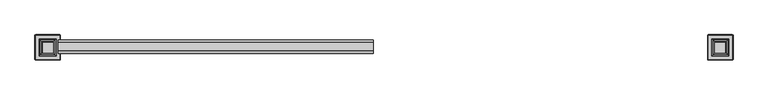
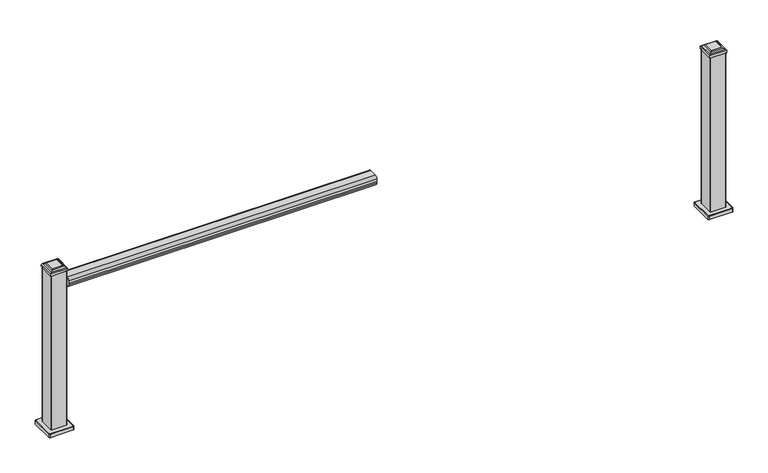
"""IFC4 building model written with IfcOpenShell, lengths in millimetres: railing geometry, NewTechWood - Peruvian Teak."""

from ifc_helpers import new_model, si_unit, point, frame, frame_2d, origin, place, context, project, spatial, polyline, circle_curve, ellipse_curve, trimmed, segment, composite_curve, outline, extrude, faceted_brep, source, transform, mapped, element, save
from ifc_brep_helpers import plane_surface, cylinder_surface, revolved_surface, advanced_brep


def railing_c6992215(model_context):
    return source(origin(), model_context, "Body", "SolidModel", [
        extrude(outline(composite_curve([segment(polyline([(11543.636591, 859.0161325), (11499.2718146, 859.0161325)]), True, "CONTINUOUS"), segment(trimmed(circle_curve(frame_2d((11499.2718146, 875.7552917)), 16.7391591), [point((11499.2718146, 859.0161325))], [point((11482.5326554, 875.7552917))], False, "CARTESIAN"), True, "CONTINUOUS"), segment(polyline([(11482.5326554, 875.7552917), (11482.5326554, 885.3278473)]), True, "CONTINUOUS"), segment(trimmed(circle_curve(frame_2d((11469.6196989, 891.6660673)), 14.3846265), [point((11482.5326554, 885.3278473))], [point((11482.0441367, 898.9152621))], True, "CARTESIAN"), True, "CONTINUOUS"), segment(trimmed(circle_curve(frame_2d((11497.612742, 898.9152621)), 15.5686053), [point((11482.0441367, 898.9152621))], [point((11497.612742, 914.4838675))], False, "CARTESIAN"), True, "CONTINUOUS"), segment(polyline([(11497.612742, 914.4838675), (11545.2956636, 914.4838675)]), True, "CONTINUOUS"), segment(trimmed(circle_curve(frame_2d((11545.2956636, 898.9152621)), 15.5686053), [point((11545.2956636, 914.4838675))], [point((11560.8642689, 898.9152621))], False, "CARTESIAN"), True, "CONTINUOUS"), segment(trimmed(circle_curve(frame_2d((11573.2887067, 891.6660673)), 14.3846265), [point((11560.8642689, 898.9152621))], [point((11560.3757501, 885.3278473))], True, "CARTESIAN"), True, "CONTINUOUS"), segment(polyline([(11560.3757501, 885.3278473), (11560.3757501, 875.7552917)]), True, "CONTINUOUS"), segment(trimmed(circle_curve(frame_2d((11543.636591, 875.7552917)), 16.7391591), [point((11560.3757501, 875.7552917))], [point((11543.636591, 859.0161325))], False, "CARTESIAN"), True, "CONTINUOUS")], self_intersect=False)), frame((20269.491138, 0.0, 0.0), z_axis=(1.0, 0.0, 0.0), x_axis=(0.0, 1.0, 0.0)), (0.0, 0.0, 1.0), 1799.0),
        advanced_brep(
        [(24121.5131693, 11447.5944784, 22.5), (24124.6727366, 11450.7540458, 22.5), (24124.6727366, 11585.4340458, 22.5), (24121.5131693, 11588.5936132, 22.5), (23986.8331693, 11588.5936132, 22.5), (23983.6736019, 11585.4340458, 22.5), (23983.6736019, 11450.7540458, 22.5), (23986.8331693, 11447.5944784, 22.5), (23981.6731693, 11585.4340458, 0.0), (23986.8331693, 11590.5940458, 0.0), (24121.5131693, 11590.5940458, 0.0), (24126.6731693, 11585.4340458, 0.0), (24126.6731693, 11450.7540458, 0.0), (24121.5131693, 11445.5940458, 0.0), (23986.8331693, 11445.5940458, 0.0), (23981.6731693, 11450.7540458, 0.0), (23981.6731693, 11450.7540458, 20.4995674), (23981.6731693, 11585.4340458, 20.4995674), (23986.8331693, 11445.5940458, 20.499569), (24121.5131693, 11445.5940458, 20.499569), (24126.6731693, 11450.7540458, 20.4995691), (24126.6731693, 11585.4340458, 20.4995674), (24121.5131693, 11590.5940458, 20.4995692), (23986.8331693, 11590.5940458, 20.4995674)],
        [
            (0, 1, circle_curve(frame((24121.5131693, 11450.7540458, 22.5), z_axis=(0.0, 0.0, 1.0), x_axis=(0.0, -1.0, 0.0)), 3.1595674)),
            (1, 2),
            (2, 3, circle_curve(frame((24121.5131693, 11585.4340458, 22.5), z_axis=(0.0, 0.0, 1.0), x_axis=(1.0, 0.0, 0.0)), 3.1595674)),
            (3, 4),
            (4, 5, circle_curve(frame((23986.8331693, 11585.4340458, 22.5), z_axis=(0.0, 0.0, 1.0), x_axis=(0.0, 1.0, 0.0)), 3.1595674)),
            (5, 6),
            (6, 7, circle_curve(frame((23986.8331693, 11450.7540458, 22.5), z_axis=(0.0, 0.0, 1.0), x_axis=(-1.0, 0.0, 0.0)), 3.1595674)),
            (7, 0),
            (8, 9, circle_curve(frame((23986.8331693, 11585.4340458, 0.0), z_axis=(0.0, 0.0, -1.0), x_axis=(0.0, 1.0, 0.0)), 5.16)),
            (9, 10),
            (10, 11, circle_curve(frame((24121.5131693, 11585.4340458, 0.0), z_axis=(0.0, 0.0, -1.0), x_axis=(0.0, 1.0, 0.0)), 5.16)),
            (11, 12),
            (12, 13, circle_curve(frame((24121.5131693, 11450.7540458, 0.0), z_axis=(0.0, 0.0, -1.0), x_axis=(0.0, 1.0, 0.0)), 5.16)),
            (13, 14),
            (14, 15, circle_curve(frame((23986.8331693, 11450.7540458, 0.0), z_axis=(0.0, 0.0, -1.0), x_axis=(0.0, 1.0, 0.0)), 5.16)),
            (15, 8),
            (15, 16),
            (16, 17),
            (17, 8),
            (14, 18),
            (18, 16, circle_curve(frame((23986.8331693, 11450.7540458, 20.4995674), z_axis=(0.0, 0.0, -1.0), x_axis=(0.0, 1.0, 0.0)), 5.16)),
            (13, 19),
            (19, 18),
            (12, 20),
            (20, 19, circle_curve(frame((24121.5131693, 11450.7540458, 20.4995674), z_axis=(0.0, 0.0, -1.0), x_axis=(0.0, 1.0, 0.0)), 5.16)),
            (11, 21),
            (21, 20),
            (10, 22),
            (22, 21, circle_curve(frame((24121.5131693, 11585.4340458, 20.4995674), z_axis=(0.0, 0.0, -1.0), x_axis=(0.0, 1.0, 0.0)), 5.16)),
            (9, 23),
            (23, 22),
            (17, 23, circle_curve(frame((23986.8331693, 11585.4340458, 20.4995674), z_axis=(0.0, 0.0, -1.0), x_axis=(0.0, 1.0, 0.0)), 5.16)),
            (20, 1, circle_curve(frame((24124.6727366, 11450.7540458, 20.4995674), z_axis=(0.0, -1.0, 0.0), x_axis=(-1.0, 0.0, 0.0)), 2.0004326)),
            (0, 19, circle_curve(frame((24121.5131693, 11447.5944784, 20.4995674), z_axis=(1.0, 0.0, 0.0), x_axis=(0.0, 1.0, 0.0)), 2.0004326)),
            (21, 2, circle_curve(frame((24124.6727366, 11585.4340458, 20.4995674), z_axis=(0.0, -1.0, 0.0), x_axis=(-1.0, 0.0, 0.0)), 2.0004326)),
            (22, 3, circle_curve(frame((24121.5131693, 11588.5936132, 20.4995674), z_axis=(1.0, 0.0, 0.0), x_axis=(0.0, -1.0, 0.0)), 2.0004326)),
            (23, 4, circle_curve(frame((23986.8331693, 11588.5936132, 20.4995674), z_axis=(1.0, 0.0, 0.0), x_axis=(0.0, -1.0, 0.0)), 2.0004326)),
            (17, 5, circle_curve(frame((23983.6736019, 11585.4340458, 20.4995674), z_axis=(0.0, 1.0, 0.0), x_axis=(1.0, 0.0, 0.0)), 2.0004326)),
            (16, 6, circle_curve(frame((23983.6736019, 11450.7540458, 20.4995674), z_axis=(0.0, 1.0, 0.0), x_axis=(1.0, 0.0, 0.0)), 2.0004326)),
            (18, 7, circle_curve(frame((23986.8331693, 11447.5944784, 20.4995674), z_axis=(-1.0, 0.0, 0.0), x_axis=(0.0, 1.0, 0.0)), 2.0004326)),
        ],
        [
            plane_surface(frame((23981.6731693, 11558.658052, 22.5), z_axis=(0.0, 0.0, 1.0), x_axis=(0.0, -1.0, 0.0))),
            plane_surface(frame((23981.6731693, 11558.658052, 0.0), z_axis=(0.0, 0.0, -1.0), x_axis=(0.0, 1.0, 0.0))),
            plane_surface(frame((23981.6731693, 11585.4340458, 22.5), z_axis=(-1.0, 0.0, 0.0), x_axis=(0.0, 0.0, -1.0))),
            cylinder_surface(frame((23986.8331693, 11450.7540458, 0.0), z_axis=(0.0, 0.0, 1.0), x_axis=(0.0, 1.0, 0.0)), 5.16),
            plane_surface(frame((23986.8331693, 11445.5940458, 22.5), z_axis=(0.0, -1.0, 0.0), x_axis=(0.0, 0.0, -1.0))),
            cylinder_surface(frame((24121.5131693, 11450.7540458, 0.0), z_axis=(0.0, 0.0, 1.0), x_axis=(0.0, 1.0, 0.0)), 5.16),
            plane_surface(frame((24126.6731693, 11450.7540458, 22.5), z_axis=(1.0, 0.0, 0.0), x_axis=(0.0, 0.0, -1.0))),
            cylinder_surface(frame((24121.5131693, 11585.4340458, 0.0), z_axis=(0.0, 0.0, 1.0), x_axis=(0.0, 1.0, 0.0)), 5.16),
            plane_surface(frame((24121.5131693, 11590.5940458, 22.5), z_axis=(0.0, 1.0, 0.0), x_axis=(0.0, 0.0, -1.0))),
            cylinder_surface(frame((23986.8331693, 11585.4340458, 0.0), z_axis=(0.0, 0.0, 1.0), x_axis=(0.0, 1.0, 0.0)), 5.16),
            revolved_surface(trimmed(ellipse_curve(frame((24121.5131693, 11447.5944784, 20.4995674), z_axis=(-1.0, 0.0, 0.0), x_axis=(0.0, 1.0, 0.0)), 2.0004326, 2.0004326), [point((24121.5131693, 11445.5940458, 20.4995674))], [point((24121.5131693, 11447.5944784, 22.5))], True, "CARTESIAN"), (24121.5131693, 11450.7540458, 22.5), (0.0, 0.0, 1.0)),
            cylinder_surface(frame((24124.6727366, 11450.7540458, 20.4995674), z_axis=(0.0, 1.0, 0.0), x_axis=(-1.0, 0.0, 0.0)), 2.0004326),
            revolved_surface(trimmed(ellipse_curve(frame((24124.6727366, 11585.4340458, 20.4995674), z_axis=(0.0, -1.0, 0.0), x_axis=(-1.0, 0.0, 0.0)), 2.0004326, 2.0004326), [point((24126.6731693, 11585.4340458, 20.4995674))], [point((24124.6727366, 11585.4340458, 22.5))], True, "CARTESIAN"), (24121.5131693, 11585.4340458, 22.5), (0.0, 0.0, 1.0)),
            cylinder_surface(frame((24121.5131693, 11588.5936132, 20.4995674), z_axis=(-1.0, 0.0, 0.0), x_axis=(0.0, -1.0, 0.0)), 2.0004326),
            revolved_surface(trimmed(ellipse_curve(frame((23986.8331693, 11588.5936132, 20.4995674), z_axis=(1.0, 0.0, 0.0), x_axis=(0.0, -1.0, 0.0)), 2.0004326, 2.0004326), [point((23986.8331693, 11590.5940458, 20.4995674))], [point((23986.8331693, 11588.5936132, 22.5))], True, "CARTESIAN"), (23986.8331693, 11585.4340458, 22.5), (0.0, 0.0, 1.0)),
            cylinder_surface(frame((23983.6736019, 11585.4340458, 20.4995674), z_axis=(0.0, -1.0, 0.0), x_axis=(1.0, 0.0, 0.0)), 2.0004326),
            revolved_surface(trimmed(ellipse_curve(frame((23983.6736019, 11450.7540458, 20.4995674), z_axis=(0.0, 1.0, 0.0), x_axis=(1.0, 0.0, 0.0)), 2.0004326, 2.0004326), [point((23981.6731693, 11450.7540458, 20.4995674))], [point((23983.6736019, 11450.7540458, 22.5))], True, "CARTESIAN"), (23986.8331693, 11450.7540458, 22.5), (0.0, 0.0, 1.0)),
            cylinder_surface(frame((23986.8331693, 11447.5944784, 20.4995674), z_axis=(1.0, 0.0, 0.0), x_axis=(0.0, 1.0, 0.0)), 2.0004326),
        ],
        [
            (0, [[1, 2, 3, 4, 5, 6, 7, 8]]),
            (1, [[9, 10, 11, 12, 13, 14, 15, 16]]),
            (2, [[-16, 17, 18, 19]]),
            (3, [[-15, 20, 21, -17]]),
            (4, [[-14, 22, 23, -20]]),
            (5, [[-13, 24, 25, -22]]),
            (6, [[-12, 26, 27, -24]]),
            (7, [[-11, 28, 29, -26]]),
            (8, [[-10, 30, 31, -28]]),
            (9, [[-9, -19, 32, -30]]),
            (10, [[33, -1, 34, -25]]),
            (11, [[-33, -27, 35, -2]]),
            (12, [[-35, -29, 36, -3]]),
            (13, [[-36, -31, 37, -4]]),
            (14, [[-37, -32, 38, -5]]),
            (15, [[-38, -18, 39, -6]]),
            (16, [[-39, -21, 40, -7]]),
            (17, [[-34, -8, -40, -23]]),
        ],
    ),
        faceted_brep([(24103.2231693, 11469.0440458, 990.769699), (24103.2231693, 11469.0440458, 976.139699), (24103.2231693, 11567.1440458, 976.139699), (24103.2231693, 11567.1440458, 990.769699), (24099.1904932, 11473.0767219, 996.0825536), (24099.1904932, 11563.1113697, 996.0825536), (24089.9653855, 11482.3018295, 1000.5958992), (24089.9653855, 11553.886262, 1000.5958992), (24085.4686181, 11486.7985969, 1004.4), (24085.4686181, 11549.3894946, 1004.4), (24005.1231693, 11567.1440458, 976.139699), (24005.1231693, 11567.1440458, 990.769699), (24009.1558454, 11563.1113697, 996.0825536), (24018.380953, 11553.886262, 1000.5958992), (24022.8777204, 11549.3894946, 1004.4), (24005.1231693, 11469.0440458, 976.139699), (24005.1231693, 11469.0440458, 990.769699), (24009.1558454, 11473.0767219, 996.0825536), (24018.380953, 11482.3018295, 1000.5958992), (24022.8777204, 11486.7985969, 1004.4)], [[[0, 1, 2, 3]], [[4, 0, 3, 5]], [[6, 4, 5, 7]], [[8, 6, 7, 9]], [[3, 2, 10, 11]], [[5, 3, 11, 12]], [[7, 5, 12, 13]], [[9, 7, 13, 14]], [[11, 10, 15, 16]], [[12, 11, 16, 17]], [[13, 12, 17, 18]], [[14, 13, 18, 19]], [[16, 15, 1, 0]], [[17, 16, 0, 4]], [[18, 17, 4, 6]], [[19, 18, 6, 8]], [[9, 14, 19, 8]], [[1, 15, 10, 2]]]),
        extrude(outline(composite_curve([segment(trimmed(circle_curve(frame_2d((24010.5831693, 11474.5040458)), 3.61), [point((24010.5831693, 11470.8940458))], [point((24006.9731693, 11474.5040458))], False, "CARTESIAN"), True, "CONTINUOUS"), segment(polyline([(24006.9731693, 11474.5040458), (24006.9731693, 11561.6840458)]), True, "CONTINUOUS"), segment(trimmed(circle_curve(frame_2d((24010.5831693, 11561.6840458)), 3.61), [point((24006.9731693, 11561.6840458))], [point((24010.5831693, 11565.2940458))], False, "CARTESIAN"), True, "CONTINUOUS"), segment(polyline([(24010.5831693, 11565.2940458), (24097.7631693, 11565.2940458)]), True, "CONTINUOUS"), segment(trimmed(circle_curve(frame_2d((24097.7631693, 11561.6840458)), 3.61), [point((24097.7631693, 11565.2940458))], [point((24101.3731693, 11561.6840458))], False, "CARTESIAN"), True, "CONTINUOUS"), segment(polyline([(24101.3731693, 11561.6840458), (24101.3731693, 11474.5040458)]), True, "CONTINUOUS"), segment(trimmed(circle_curve(frame_2d((24097.7631693, 11474.5040458)), 3.61), [point((24101.3731693, 11474.5040458))], [point((24097.7631693, 11470.8940458))], False, "CARTESIAN"), True, "CONTINUOUS"), segment(polyline([(24097.7631693, 11470.8940458), (24010.5831693, 11470.8940458)]), True, "CONTINUOUS")], self_intersect=False)), frame((0.0, 0.0, 22.5), z_axis=(0.0, 0.0, 1.0), x_axis=(1.0, 0.0, 0.0)), (0.0, 0.0, 1.0), 953.639699),
        advanced_brep(
        [(20274.6037943, 11447.5944784, 22.5), (20277.7633616, 11450.7540458, 22.5), (20277.7633616, 11585.4340458, 22.5), (20274.6037943, 11588.5936132, 22.5), (20139.9237943, 11588.5936132, 22.5), (20136.7642269, 11585.4340458, 22.5), (20136.7642269, 11450.7540458, 22.5), (20139.9237943, 11447.5944784, 22.5), (20134.7637943, 11585.4340458, 0.0), (20139.9237943, 11590.5940458, 0.0), (20274.6037943, 11590.5940458, 0.0), (20279.7637943, 11585.4340458, 0.0), (20279.7637943, 11450.7540458, 0.0), (20274.6037943, 11445.5940458, 0.0), (20139.9237943, 11445.5940458, 0.0), (20134.7637943, 11450.7540458, 0.0), (20134.7637943, 11450.7540458, 20.4995674), (20134.7637943, 11585.4340458, 20.4995674), (20139.9237943, 11445.5940458, 20.499569), (20274.6037943, 11445.5940458, 20.499569), (20279.7637943, 11450.7540458, 20.4995691), (20279.7637943, 11585.4340458, 20.4995674), (20274.6037943, 11590.5940458, 20.4995692), (20139.9237943, 11590.5940458, 20.4995674)],
        [
            (0, 1, circle_curve(frame((20274.6037943, 11450.7540458, 22.5), z_axis=(0.0, 0.0, 1.0), x_axis=(0.0, -1.0, 0.0)), 3.1595674)),
            (1, 2),
            (2, 3, circle_curve(frame((20274.6037943, 11585.4340458, 22.5), z_axis=(0.0, 0.0, 1.0), x_axis=(1.0, 0.0, 0.0)), 3.1595674)),
            (3, 4),
            (4, 5, circle_curve(frame((20139.9237943, 11585.4340458, 22.5), z_axis=(0.0, 0.0, 1.0), x_axis=(0.0, 1.0, 0.0)), 3.1595674)),
            (5, 6),
            (6, 7, circle_curve(frame((20139.9237943, 11450.7540458, 22.5), z_axis=(0.0, 0.0, 1.0), x_axis=(-1.0, 0.0, 0.0)), 3.1595674)),
            (7, 0),
            (8, 9, circle_curve(frame((20139.9237943, 11585.4340458, 0.0), z_axis=(0.0, 0.0, -1.0), x_axis=(0.0, 1.0, 0.0)), 5.16)),
            (9, 10),
            (10, 11, circle_curve(frame((20274.6037943, 11585.4340458, 0.0), z_axis=(0.0, 0.0, -1.0), x_axis=(0.0, 1.0, 0.0)), 5.16)),
            (11, 12),
            (12, 13, circle_curve(frame((20274.6037943, 11450.7540458, 0.0), z_axis=(0.0, 0.0, -1.0), x_axis=(0.0, 1.0, 0.0)), 5.16)),
            (13, 14),
            (14, 15, circle_curve(frame((20139.9237943, 11450.7540458, 0.0), z_axis=(0.0, 0.0, -1.0), x_axis=(0.0, 1.0, 0.0)), 5.16)),
            (15, 8),
            (15, 16),
            (16, 17),
            (17, 8),
            (14, 18),
            (18, 16, circle_curve(frame((20139.9237943, 11450.7540458, 20.4995674), z_axis=(0.0, 0.0, -1.0), x_axis=(0.0, 1.0, 0.0)), 5.16)),
            (13, 19),
            (19, 18),
            (12, 20),
            (20, 19, circle_curve(frame((20274.6037943, 11450.7540458, 20.4995674), z_axis=(0.0, 0.0, -1.0), x_axis=(0.0, 1.0, 0.0)), 5.16)),
            (11, 21),
            (21, 20),
            (10, 22),
            (22, 21, circle_curve(frame((20274.6037943, 11585.4340458, 20.4995674), z_axis=(0.0, 0.0, -1.0), x_axis=(0.0, 1.0, 0.0)), 5.16)),
            (9, 23),
            (23, 22),
            (17, 23, circle_curve(frame((20139.9237943, 11585.4340458, 20.4995674), z_axis=(0.0, 0.0, -1.0), x_axis=(0.0, 1.0, 0.0)), 5.16)),
            (20, 1, circle_curve(frame((20277.7633616, 11450.7540458, 20.4995674), z_axis=(0.0, -1.0, 0.0), x_axis=(-1.0, 0.0, 0.0)), 2.0004326)),
            (0, 19, circle_curve(frame((20274.6037943, 11447.5944784, 20.4995674), z_axis=(1.0, 0.0, 0.0), x_axis=(0.0, 1.0, 0.0)), 2.0004326)),
            (21, 2, circle_curve(frame((20277.7633616, 11585.4340458, 20.4995674), z_axis=(0.0, -1.0, 0.0), x_axis=(-1.0, 0.0, 0.0)), 2.0004326)),
            (22, 3, circle_curve(frame((20274.6037943, 11588.5936132, 20.4995674), z_axis=(1.0, 0.0, 0.0), x_axis=(0.0, -1.0, 0.0)), 2.0004326)),
            (23, 4, circle_curve(frame((20139.9237943, 11588.5936132, 20.4995674), z_axis=(1.0, 0.0, 0.0), x_axis=(0.0, -1.0, 0.0)), 2.0004326)),
            (17, 5, circle_curve(frame((20136.7642269, 11585.4340458, 20.4995674), z_axis=(0.0, 1.0, 0.0), x_axis=(1.0, 0.0, 0.0)), 2.0004326)),
            (16, 6, circle_curve(frame((20136.7642269, 11450.7540458, 20.4995674), z_axis=(0.0, 1.0, 0.0), x_axis=(1.0, 0.0, 0.0)), 2.0004326)),
            (18, 7, circle_curve(frame((20139.9237943, 11447.5944784, 20.4995674), z_axis=(-1.0, 0.0, 0.0), x_axis=(0.0, 1.0, 0.0)), 2.0004326)),
        ],
        [
            plane_surface(frame((20134.7637943, 11558.658052, 22.5), z_axis=(0.0, 0.0, 1.0), x_axis=(0.0, -1.0, 0.0))),
            plane_surface(frame((20134.7637943, 11558.658052, 0.0), z_axis=(0.0, 0.0, -1.0), x_axis=(0.0, 1.0, 0.0))),
            plane_surface(frame((20134.7637943, 11585.4340458, 22.5), z_axis=(-1.0, 0.0, 0.0), x_axis=(0.0, 0.0, -1.0))),
            cylinder_surface(frame((20139.9237943, 11450.7540458, 0.0), z_axis=(0.0, 0.0, 1.0), x_axis=(0.0, 1.0, 0.0)), 5.16),
            plane_surface(frame((20139.9237943, 11445.5940458, 22.5), z_axis=(0.0, -1.0, 0.0), x_axis=(0.0, 0.0, -1.0))),
            cylinder_surface(frame((20274.6037943, 11450.7540458, 0.0), z_axis=(0.0, 0.0, 1.0), x_axis=(0.0, 1.0, 0.0)), 5.16),
            plane_surface(frame((20279.7637943, 11450.7540458, 22.5), z_axis=(1.0, 0.0, 0.0), x_axis=(0.0, 0.0, -1.0))),
            cylinder_surface(frame((20274.6037943, 11585.4340458, 0.0), z_axis=(0.0, 0.0, 1.0), x_axis=(0.0, 1.0, 0.0)), 5.16),
            plane_surface(frame((20274.6037943, 11590.5940458, 22.5), z_axis=(0.0, 1.0, 0.0), x_axis=(0.0, 0.0, -1.0))),
            cylinder_surface(frame((20139.9237943, 11585.4340458, 0.0), z_axis=(0.0, 0.0, 1.0), x_axis=(0.0, 1.0, 0.0)), 5.16),
            revolved_surface(trimmed(ellipse_curve(frame((20274.6037943, 11447.5944784, 20.4995674), z_axis=(-1.0, 0.0, 0.0), x_axis=(0.0, 1.0, 0.0)), 2.0004326, 2.0004326), [point((20274.6037943, 11445.5940458, 20.4995674))], [point((20274.6037943, 11447.5944784, 22.5))], True, "CARTESIAN"), (20274.6037943, 11450.7540458, 22.5), (0.0, 0.0, 1.0)),
            cylinder_surface(frame((20277.7633616, 11450.7540458, 20.4995674), z_axis=(0.0, 1.0, 0.0), x_axis=(-1.0, 0.0, 0.0)), 2.0004326),
            revolved_surface(trimmed(ellipse_curve(frame((20277.7633616, 11585.4340458, 20.4995674), z_axis=(0.0, -1.0, 0.0), x_axis=(-1.0, 0.0, 0.0)), 2.0004326, 2.0004326), [point((20279.7637943, 11585.4340458, 20.4995674))], [point((20277.7633616, 11585.4340458, 22.5))], True, "CARTESIAN"), (20274.6037943, 11585.4340458, 22.5), (0.0, 0.0, 1.0)),
            cylinder_surface(frame((20274.6037943, 11588.5936132, 20.4995674), z_axis=(-1.0, 0.0, 0.0), x_axis=(0.0, -1.0, 0.0)), 2.0004326),
            revolved_surface(trimmed(ellipse_curve(frame((20139.9237943, 11588.5936132, 20.4995674), z_axis=(1.0, 0.0, 0.0), x_axis=(0.0, -1.0, 0.0)), 2.0004326, 2.0004326), [point((20139.9237943, 11590.5940458, 20.4995674))], [point((20139.9237943, 11588.5936132, 22.5))], True, "CARTESIAN"), (20139.9237943, 11585.4340458, 22.5), (0.0, 0.0, 1.0)),
            cylinder_surface(frame((20136.7642269, 11585.4340458, 20.4995674), z_axis=(0.0, -1.0, 0.0), x_axis=(1.0, 0.0, 0.0)), 2.0004326),
            revolved_surface(trimmed(ellipse_curve(frame((20136.7642269, 11450.7540458, 20.4995674), z_axis=(0.0, 1.0, 0.0), x_axis=(1.0, 0.0, 0.0)), 2.0004326, 2.0004326), [point((20134.7637943, 11450.7540458, 20.4995674))], [point((20136.7642269, 11450.7540458, 22.5))], True, "CARTESIAN"), (20139.9237943, 11450.7540458, 22.5), (0.0, 0.0, 1.0)),
            cylinder_surface(frame((20139.9237943, 11447.5944784, 20.4995674), z_axis=(1.0, 0.0, 0.0), x_axis=(0.0, 1.0, 0.0)), 2.0004326),
        ],
        [
            (0, [[1, 2, 3, 4, 5, 6, 7, 8]]),
            (1, [[9, 10, 11, 12, 13, 14, 15, 16]]),
            (2, [[-16, 17, 18, 19]]),
            (3, [[-15, 20, 21, -17]]),
            (4, [[-14, 22, 23, -20]]),
            (5, [[-13, 24, 25, -22]]),
            (6, [[-12, 26, 27, -24]]),
            (7, [[-11, 28, 29, -26]]),
            (8, [[-10, 30, 31, -28]]),
            (9, [[-9, -19, 32, -30]]),
            (10, [[33, -1, 34, -25]]),
            (11, [[-33, -27, 35, -2]]),
            (12, [[-35, -29, 36, -3]]),
            (13, [[-36, -31, 37, -4]]),
            (14, [[-37, -32, 38, -5]]),
            (15, [[-38, -18, 39, -6]]),
            (16, [[-39, -21, 40, -7]]),
            (17, [[-34, -8, -40, -23]]),
        ],
    ),
        faceted_brep([(20256.3137943, 11469.0440458, 990.769699), (20256.3137943, 11469.0440458, 976.139699), (20256.3137943, 11567.1440458, 976.139699), (20256.3137943, 11567.1440458, 990.769699), (20252.2811182, 11473.0767219, 996.0825536), (20252.2811182, 11563.1113697, 996.0825536), (20243.0560105, 11482.3018295, 1000.5958992), (20243.0560105, 11553.886262, 1000.5958992), (20238.5592431, 11486.7985969, 1004.4), (20238.5592431, 11549.3894946, 1004.4), (20158.2137943, 11567.1440458, 976.139699), (20158.2137943, 11567.1440458, 990.769699), (20162.2464704, 11563.1113697, 996.0825536), (20171.471578, 11553.886262, 1000.5958992), (20175.9683454, 11549.3894946, 1004.4), (20158.2137943, 11469.0440458, 976.139699), (20158.2137943, 11469.0440458, 990.769699), (20162.2464704, 11473.0767219, 996.0825536), (20171.471578, 11482.3018295, 1000.5958992), (20175.9683454, 11486.7985969, 1004.4)], [[[0, 1, 2, 3]], [[4, 0, 3, 5]], [[6, 4, 5, 7]], [[8, 6, 7, 9]], [[3, 2, 10, 11]], [[5, 3, 11, 12]], [[7, 5, 12, 13]], [[9, 7, 13, 14]], [[11, 10, 15, 16]], [[12, 11, 16, 17]], [[13, 12, 17, 18]], [[14, 13, 18, 19]], [[16, 15, 1, 0]], [[17, 16, 0, 4]], [[18, 17, 4, 6]], [[19, 18, 6, 8]], [[9, 14, 19, 8]], [[1, 15, 10, 2]]]),
        extrude(outline(composite_curve([segment(trimmed(circle_curve(frame_2d((20163.6737943, 11474.5040458)), 3.61), [point((20163.6737943, 11470.8940458))], [point((20160.0637943, 11474.5040458))], False, "CARTESIAN"), True, "CONTINUOUS"), segment(polyline([(20160.0637943, 11474.5040458), (20160.0637943, 11561.6840458)]), True, "CONTINUOUS"), segment(trimmed(circle_curve(frame_2d((20163.6737943, 11561.6840458)), 3.61), [point((20160.0637943, 11561.6840458))], [point((20163.6737943, 11565.2940458))], False, "CARTESIAN"), True, "CONTINUOUS"), segment(polyline([(20163.6737943, 11565.2940458), (20250.8537943, 11565.2940458)]), True, "CONTINUOUS"), segment(trimmed(circle_curve(frame_2d((20250.8537943, 11561.6840458)), 3.61), [point((20250.8537943, 11565.2940458))], [point((20254.4637943, 11561.6840458))], False, "CARTESIAN"), True, "CONTINUOUS"), segment(polyline([(20254.4637943, 11561.6840458), (20254.4637943, 11474.5040458)]), True, "CONTINUOUS"), segment(trimmed(circle_curve(frame_2d((20250.8537943, 11474.5040458)), 3.61), [point((20254.4637943, 11474.5040458))], [point((20250.8537943, 11470.8940458))], False, "CARTESIAN"), True, "CONTINUOUS"), segment(polyline([(20250.8537943, 11470.8940458), (20163.6737943, 11470.8940458)]), True, "CONTINUOUS")], self_intersect=False)), frame((0.0, 0.0, 22.5), z_axis=(0.0, 0.0, 1.0), x_axis=(1.0, 0.0, 0.0)), (0.0, 0.0, 1.0), 953.639699),
    ])


if __name__ == "__main__":
    model = new_model("IFC4")
    model_context = context("Model", 3, world=origin())
    ifc_project = project(units=[si_unit("LENGTHUNIT", "METRE", prefix="MILLI")], contexts=[model_context])
    site = spatial("IfcSite", under=ifc_project)
    building = spatial("IfcBuilding", under=site)
    placement = place(None, origin())
    railing_shape = railing_c6992215(model_context)
    element("IfcRailing", 1, ObjectType="NewTechWood - Peruvian Teak", at=placement, inside=building, context=model_context, shape_type="MappedRepresentation", body=[
        mapped(railing_shape, transform((0.0, 0.0, 0.0), x_axis=(1.0, 0.0, 0.0), y_axis=(0.0, 1.0, 0.0), z_axis=(0.0, 0.0, 1.0))),
    ])
    save(model, "model.ifc")
